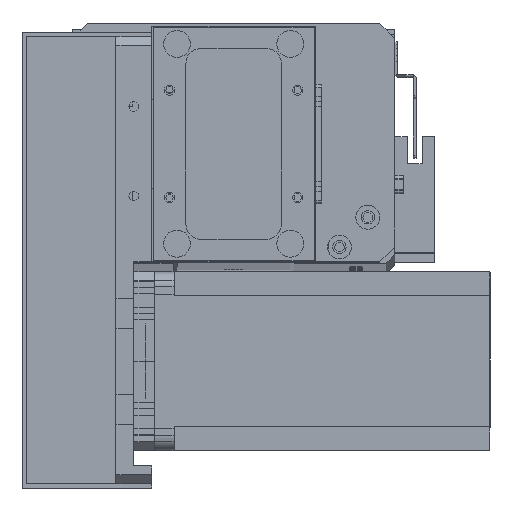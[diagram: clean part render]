
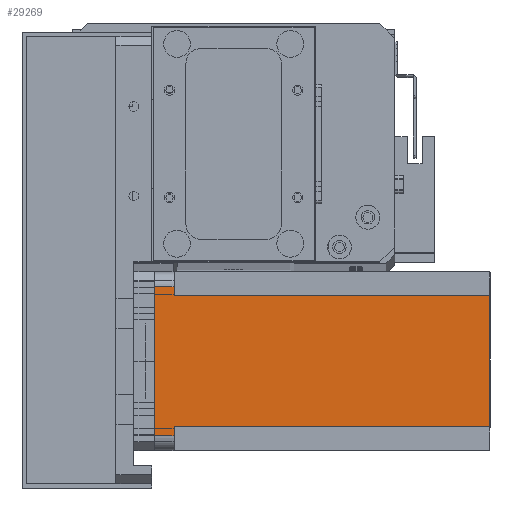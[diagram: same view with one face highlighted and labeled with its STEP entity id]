
A CAD part, top view. The second image highlights one B-rep face of the part: STEP entity #29269.
In plain terms, the highlighted planar face has unit normal (0, 0, 1) as drawn and (0, 1, 0) by its records, which use the part's own axes.
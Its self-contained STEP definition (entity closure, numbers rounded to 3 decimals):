
#21 = CARTESIAN_POINT ( 'NONE',  ( 52., 60., -112.5 ) ) ;
#334 = CARTESIAN_POINT ( 'NONE',  ( 55., 60., -6.5 ) ) ;
#1053 = DIRECTION ( 'NONE',  ( 0., 0., 1. ) ) ;
#1951 = VERTEX_POINT ( 'NONE', #3150 ) ;
#2247 = VERTEX_POINT ( 'NONE', #30021 ) ;
#2320 = EDGE_CURVE ( 'NONE', #20202, #28458, #15982, .T. ) ;
#2781 = DIRECTION ( 'NONE',  ( -1., 0., 0. ) ) ;
#3101 = CARTESIAN_POINT ( 'NONE',  ( 8., 60., -6.5 ) ) ;
#3150 = CARTESIAN_POINT ( 'NONE',  ( 5., 60., 0. ) ) ;
#4243 = ORIENTED_EDGE ( 'NONE', *, *, #22620, .T. ) ;
#4314 = DIRECTION ( 'NONE',  ( 0., 0., 1. ) ) ;
#4386 = EDGE_LOOP ( 'NONE', ( #9549, #17219, #17349, #15076, #29992, #18125, #17214, #4243 ) ) ;
#4643 = VECTOR ( 'NONE', #2781, 1000. ) ;
#4693 = LINE ( 'NONE', #27988, #11465 ) ;
#4726 = EDGE_CURVE ( 'NONE', #26442, #14248, #4693, .T. ) ;
#5088 = LINE ( 'NONE', #22073, #11852 ) ;
#5256 = CARTESIAN_POINT ( 'NONE',  ( 5., 60., -6.5 ) ) ;
#8005 = CARTESIAN_POINT ( 'NONE',  ( 55., 60., 0. ) ) ;
#8445 = EDGE_CURVE ( 'NONE', #27987, #28458, #14408, .T. ) ;
#9549 = ORIENTED_EDGE ( 'NONE', *, *, #12675, .F. ) ;
#10200 = DIRECTION ( 'NONE',  ( 0., 0., -1. ) ) ;
#10268 = DIRECTION ( 'NONE',  ( 0., 0., 1. ) ) ;
#10716 = CARTESIAN_POINT ( 'NONE',  ( 55., 60., -112.5 ) ) ;
#10795 = DIRECTION ( 'NONE',  ( -1., 0., 0. ) ) ;
#11465 = VECTOR ( 'NONE', #10200, 1000. ) ;
#11852 = VECTOR ( 'NONE', #4314, 1000. ) ;
#12211 = LINE ( 'NONE', #21, #24138 ) ;
#12675 = EDGE_CURVE ( 'NONE', #27987, #1951, #24134, .T. ) ;
#13276 = DIRECTION ( 'NONE',  ( 0., 0., -1. ) ) ;
#13326 = VECTOR ( 'NONE', #20080, 1000. ) ;
#13822 = EDGE_CURVE ( 'NONE', #2247, #14248, #14112, .T. ) ;
#14112 = LINE ( 'NONE', #30203, #13326 ) ;
#14248 = VERTEX_POINT ( 'NONE', #32685 ) ;
#14408 = LINE ( 'NONE', #10716, #27153 ) ;
#14762 = VECTOR ( 'NONE', #10795, 1000. ) ;
#14970 = CARTESIAN_POINT ( 'NONE',  ( 8., 60., -6.5 ) ) ;
#14994 = CARTESIAN_POINT ( 'NONE',  ( 52., 60., -6.5 ) ) ;
#15076 = ORIENTED_EDGE ( 'NONE', *, *, #23384, .F. ) ;
#15982 = LINE ( 'NONE', #14994, #28700 ) ;
#16272 = DIRECTION ( 'NONE',  ( 0., 1., 0. ) ) ;
#17214 = ORIENTED_EDGE ( 'NONE', *, *, #29906, .T. ) ;
#17219 = ORIENTED_EDGE ( 'NONE', *, *, #8445, .T. ) ;
#17349 = ORIENTED_EDGE ( 'NONE', *, *, #2320, .F. ) ;
#18013 = CARTESIAN_POINT ( 'NONE',  ( 0., 60., 0. ) ) ;
#18125 = ORIENTED_EDGE ( 'NONE', *, *, #4726, .F. ) ;
#18844 = CARTESIAN_POINT ( 'NONE',  ( 52., 60., -6.5 ) ) ;
#20080 = DIRECTION ( 'NONE',  ( -1., 0., 0. ) ) ;
#20202 = VERTEX_POINT ( 'NONE', #18844 ) ;
#21629 = VERTEX_POINT ( 'NONE', #5256 ) ;
#22073 = CARTESIAN_POINT ( 'NONE',  ( 5., 60., -112.5 ) ) ;
#22535 = DIRECTION ( 'NONE',  ( 1., 0., 0. ) ) ;
#22620 = EDGE_CURVE ( 'NONE', #21629, #1951, #5088, .T. ) ;
#23384 = EDGE_CURVE ( 'NONE', #2247, #20202, #12211, .T. ) ;
#23647 = CARTESIAN_POINT ( 'NONE',  ( 0., 60., -112.5 ) ) ;
#24134 = LINE ( 'NONE', #18013, #4643 ) ;
#24138 = VECTOR ( 'NONE', #10268, 1000. ) ;
#25556 = FACE_OUTER_BOUND ( 'NONE', #4386, .T. ) ;
#26417 = PLANE ( 'NONE',  #30676 ) ;
#26442 = VERTEX_POINT ( 'NONE', #14970 ) ;
#27153 = VECTOR ( 'NONE', #13276, 1000. ) ;
#27987 = VERTEX_POINT ( 'NONE', #8005 ) ;
#27988 = CARTESIAN_POINT ( 'NONE',  ( 8., 60., -112.5 ) ) ;
#28458 = VERTEX_POINT ( 'NONE', #334 ) ;
#28700 = VECTOR ( 'NONE', #22535, 1000. ) ;
#29066 = LINE ( 'NONE', #3101, #14762 ) ;
#29269 = ADVANCED_FACE ( 'NONE', ( #25556 ), #26417, .T. ) ;
#29906 = EDGE_CURVE ( 'NONE', #26442, #21629, #29066, .T. ) ;
#29992 = ORIENTED_EDGE ( 'NONE', *, *, #13822, .T. ) ;
#30021 = CARTESIAN_POINT ( 'NONE',  ( 52., 60., -112.5 ) ) ;
#30203 = CARTESIAN_POINT ( 'NONE',  ( 0., 60., -112.5 ) ) ;
#30676 = AXIS2_PLACEMENT_3D ( 'NONE', #23647, #16272, #1053 ) ;
#32685 = CARTESIAN_POINT ( 'NONE',  ( 8., 60., -112.5 ) ) ;
